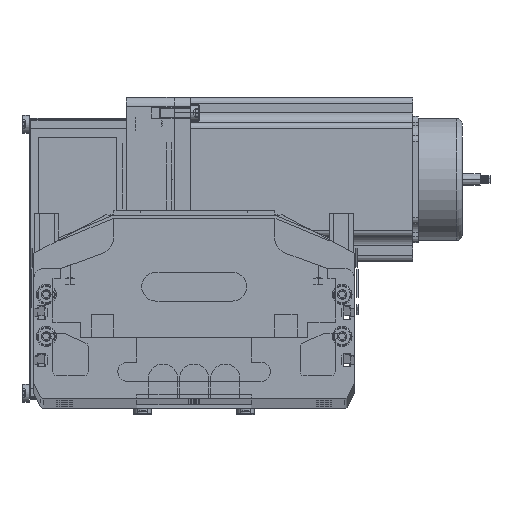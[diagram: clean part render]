
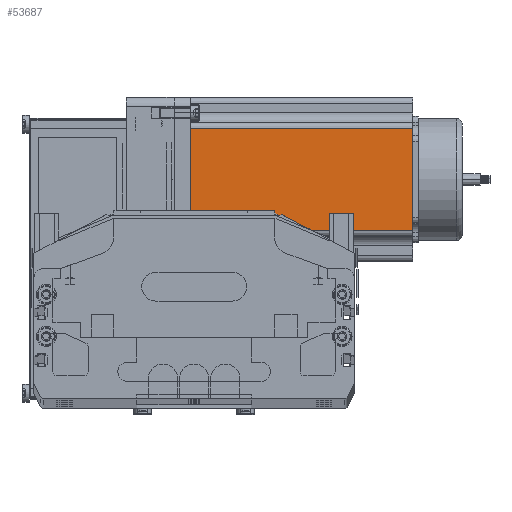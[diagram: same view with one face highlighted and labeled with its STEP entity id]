
A CAD part, top view. The second image highlights one B-rep face of the part: STEP entity #53687.
In plain terms, the highlighted planar face has unit normal (0, 0, 1) as drawn and (0, -1, 0) by its records, which use the part's own axes.
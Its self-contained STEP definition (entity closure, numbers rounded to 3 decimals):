
#16374 = CARTESIAN_POINT ( 'NONE',  ( 69.74, 0., 0. ) ) ;
#50217 = CARTESIAN_POINT ( 'NONE',  ( 0., 0., 116.5 ) ) ;
#50251 = DIRECTION ( 'NONE',  ( 0., 0., 1. ) ) ;
#50252 = VECTOR ( 'NONE', #50251, 1000. ) ;
#50253 = CARTESIAN_POINT ( 'NONE',  ( 69.74, 0., 116.5 ) ) ;
#50255 = LINE ( 'NONE', #50253, #50252 ) ;
#50258 = LINE ( 'NONE', #50354, #50352 ) ;
#50267 = AXIS2_PLACEMENT_3D ( 'NONE', #50217, #50340, #50338 ) ;
#50282 = DIRECTION ( 'NONE',  ( 1., 0., 0. ) ) ;
#50284 = VECTOR ( 'NONE', #50282, 1000. ) ;
#50286 = CARTESIAN_POINT ( 'NONE',  ( 0., 0., 116.5 ) ) ;
#50297 = LINE ( 'NONE', #50286, #50284 ) ;
#50328 = CARTESIAN_POINT ( 'NONE',  ( 16.16, 0., 0. ) ) ;
#50338 = DIRECTION ( 'NONE',  ( 0., 0., 1. ) ) ;
#50340 = DIRECTION ( 'NONE',  ( 0., 1., 0. ) ) ;
#50346 = CARTESIAN_POINT ( 'NONE',  ( 16.16, 0., 116.5 ) ) ;
#50348 = PLANE ( 'NONE',  #50267 ) ;
#50350 = DIRECTION ( 'NONE',  ( 1., 0., 0. ) ) ;
#50352 = VECTOR ( 'NONE', #50350, 1000. ) ;
#50354 = CARTESIAN_POINT ( 'NONE',  ( 0., 0., 0. ) ) ;
#50358 = CARTESIAN_POINT ( 'NONE',  ( 69.74, 0., 116.5 ) ) ;
#50376 = FACE_OUTER_BOUND ( 'NONE', #53631, .T. ) ;
#50405 = CARTESIAN_POINT ( 'NONE',  ( 16.16, 0., 116.5 ) ) ;
#50407 = LINE ( 'NONE', #50405, #50512 ) ;
#50511 = DIRECTION ( 'NONE',  ( 0., 0., -1. ) ) ;
#50512 = VECTOR ( 'NONE', #50511, 1000. ) ;
#53631 = EDGE_LOOP ( 'NONE', ( #53926, #53663, #53753, #53684 ) ) ;
#53637 = EDGE_CURVE ( 'NONE', #53689, #53691, #50297, .T. ) ;
#53657 = EDGE_CURVE ( 'NONE', #53918, #53691, #50255, .T. ) ;
#53663 = ORIENTED_EDGE ( 'NONE', *, *, #53657, .T. ) ;
#53683 = EDGE_CURVE ( 'NONE', #53700, #53918, #50258, .T. ) ;
#53684 = ORIENTED_EDGE ( 'NONE', *, *, #53755, .T. ) ;
#53687 = ADVANCED_FACE ( 'NONE', ( #50376 ), #50348, .F. ) ;
#53689 = VERTEX_POINT ( 'NONE', #50346 ) ;
#53691 = VERTEX_POINT ( 'NONE', #50358 ) ;
#53700 = VERTEX_POINT ( 'NONE', #50328 ) ;
#53753 = ORIENTED_EDGE ( 'NONE', *, *, #53637, .F. ) ;
#53755 = EDGE_CURVE ( 'NONE', #53689, #53700, #50407, .T. ) ;
#53918 = VERTEX_POINT ( 'NONE', #16374 ) ;
#53926 = ORIENTED_EDGE ( 'NONE', *, *, #53683, .T. ) ;
